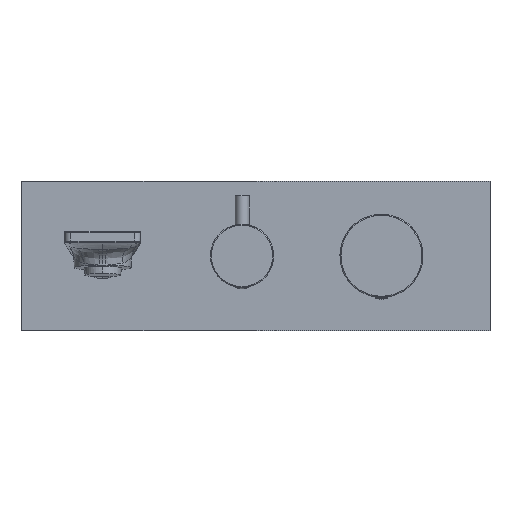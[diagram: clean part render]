
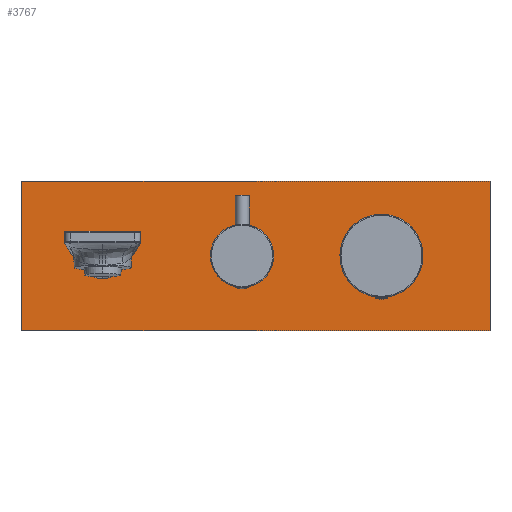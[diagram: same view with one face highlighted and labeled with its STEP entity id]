
A CAD part, top view. The second image highlights one B-rep face of the part: STEP entity #3767.
In plain terms, the highlighted planar face has unit normal (0, 0, 1).
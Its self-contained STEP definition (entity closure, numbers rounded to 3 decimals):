
#3652=DIRECTION('',(-1.,0.,0.));
#3653=VECTOR('',#3652,235.);
#3654=CARTESIAN_POINT('',(124.5,37.5,15.5));
#3655=LINE('',#3654,#3653);
#3656=DIRECTION('',(0.,1.,0.));
#3657=VECTOR('',#3656,75.);
#3658=CARTESIAN_POINT('',(124.5,-37.5,15.5));
#3659=LINE('',#3658,#3657);
#3660=DIRECTION('',(1.,0.,0.));
#3661=VECTOR('',#3660,235.);
#3662=CARTESIAN_POINT('',(-110.5,-37.5,15.5));
#3663=LINE('',#3662,#3661);
#3664=DIRECTION('',(0.,-1.,0.));
#3665=VECTOR('',#3664,75.);
#3666=CARTESIAN_POINT('',(-110.5,37.5,15.5));
#3667=LINE('',#3666,#3665);
#3676=CARTESIAN_POINT('',(124.5,37.5,15.5));
#3677=CARTESIAN_POINT('',(-110.5,37.5,15.5));
#3678=VERTEX_POINT('',#3676);
#3679=VERTEX_POINT('',#3677);
#3680=CARTESIAN_POINT('',(-110.5,-37.5,15.5));
#3681=CARTESIAN_POINT('',(124.5,-37.5,15.5));
#3682=VERTEX_POINT('',#3680);
#3683=VERTEX_POINT('',#3681);
#3756=CARTESIAN_POINT('',(7.,0.,15.5));
#3757=DIRECTION('',(0.,0.,1.));
#3758=DIRECTION('',(-1.,0.,0.));
#3759=AXIS2_PLACEMENT_3D('',#3756,#3757,#3758);
#3760=PLANE('',#3759);
#3761=ORIENTED_EDGE('',*,*,#3708,.F.);
#3762=ORIENTED_EDGE('',*,*,#3723,.F.);
#3763=ORIENTED_EDGE('',*,*,#3737,.F.);
#3764=ORIENTED_EDGE('',*,*,#3750,.F.);
#3765=EDGE_LOOP('',(#3761,#3762,#3763,#3764));
#3766=FACE_OUTER_BOUND('',#3765,.F.);
#3767=ADVANCED_FACE('',(#3766),#3760,.T.);
#3708=EDGE_CURVE('',#3678,#3679,#3655,.T.);
#3723=EDGE_CURVE('',#3683,#3678,#3659,.T.);
#3737=EDGE_CURVE('',#3682,#3683,#3663,.T.);
#3750=EDGE_CURVE('',#3679,#3682,#3667,.T.);
